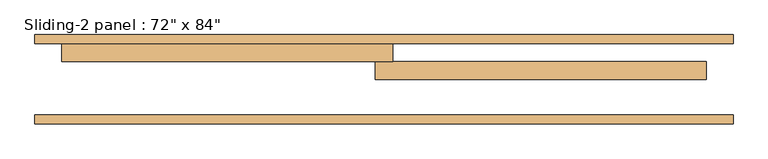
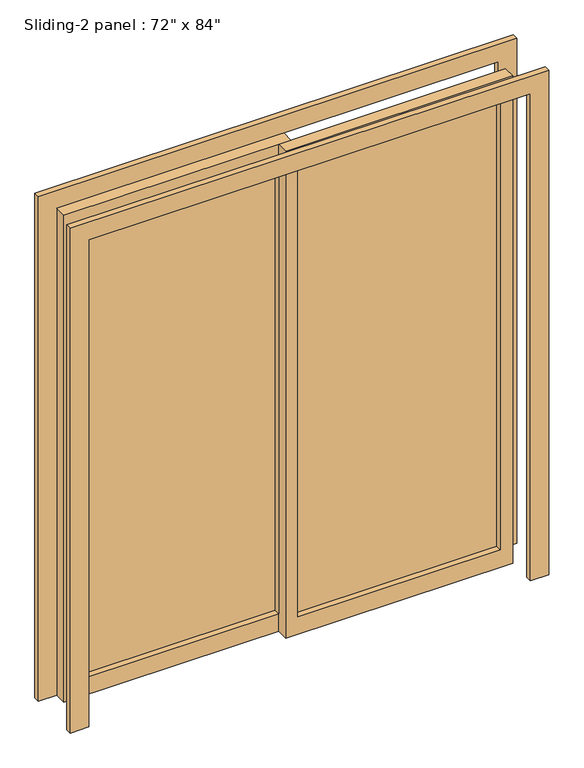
"""IFC4 building model written with IfcOpenShell, lengths in millimetres: door geometry."""

import ifcopenshell
import ifcopenshell.guid

model = None  # the IFC model being written
_history = None  # IfcOwnerHistory: only IFC2X3 demands one
_inside = {}  # id of a spatial element -> (the spatial element, [elements in it])
_under = {}  # id of a project, library or spatial element -> (it, [spatial elements below it])
_declared = {}  # id of a project -> (the project, [libraries it declares])
_typed = {}  # id of a type object -> (the type object, [elements of that type])
_made_of = {}  # id of a material, layer set ... -> (it, [elements and type objects made of it])


def new_model(schema):
    """Start an empty IFC model of exactly this schema.

    Asked for "IFC4X3", IfcOpenShell would pick the latest addendum, in which some entities
    have other attributes; the version numbers below select the first issue.
    IFC2X3 requires an IfcOwnerHistory on every rooted entity: one is made here for all.
    """
    global model, _history
    if schema == "IFC4X3":
        model = ifcopenshell.file(schema_version=(4, 3, 0, 0))
    else:
        model = ifcopenshell.file(schema=schema)
    _inside.clear()
    _under.clear()
    _declared.clear()
    _typed.clear()
    _made_of.clear()
    _history = None
    if model.schema == "IFC2X3":
        org = make("IfcOrganization", Name="unknown")
        user = make(
            "IfcPersonAndOrganization",
            ThePerson=make("IfcPerson", FamilyName="unknown"),
            TheOrganization=org,
        )
        app = make(
            "IfcApplication",
            ApplicationDeveloper=org,
            Version="unknown",
            ApplicationFullName="unknown",
            ApplicationIdentifier="unknown",
        )
        _history = make(
            "IfcOwnerHistory",
            OwningUser=user,
            OwningApplication=app,
            ChangeAction="ADDED",
            CreationDate=0,
        )
    return model


def make(cls, **values):
    """One entity of the class cls with the attributes given. An attribute that is None is left unset."""
    return model.create_entity(
        cls, **{name: value for name, value in values.items() if value is not None}
    )


def rooted(cls, **values):
    """An entity with a GlobalId (a new one), such as an element, a storey or a relation."""
    return make(cls, GlobalId=ifcopenshell.guid.new(), OwnerHistory=_history, **values)


def si_unit(unit_type, name, prefix=None):
    """IfcSIUnit, for example si_unit("LENGTHUNIT", "METRE", prefix="MILLI")."""
    return make("IfcSIUnit", UnitType=unit_type, Prefix=prefix, Name=name)


def assignment(units):
    """IfcUnitAssignment: the units of a project."""
    return None if units is None else make("IfcUnitAssignment", Units=units)


def point(xyz):
    """IfcCartesianPoint."""
    return None if xyz is None else make("IfcCartesianPoint", Coordinates=xyz)


def direction(xyz):
    """IfcDirection."""
    return None if xyz is None else make("IfcDirection", DirectionRatios=xyz)


def frame(location, z_axis=None, x_axis=None):
    """IfcAxis2Placement3D, a coordinate frame: its origin and axes. An axis left out is left unset."""
    return make(
        "IfcAxis2Placement3D",
        Location=point(location),
        Axis=direction(z_axis),
        RefDirection=direction(x_axis),
    )


def origin():
    """The frame at (0, 0, 0) with its axes left unset."""
    return frame((0.0, 0.0, 0.0))


def place(relative_to, where):
    """IfcLocalPlacement: puts the frame where relative to a parent placement (None: the world)."""
    return make(
        "IfcLocalPlacement", PlacementRelTo=relative_to, RelativePlacement=where
    )


def context(
    kind, dimensions, precision=None, world=None, true_north=None, identifier=None
):
    """IfcGeometricRepresentationContext, for example the 3D "Model" context."""
    return make(
        "IfcGeometricRepresentationContext",
        ContextIdentifier=identifier,
        ContextType=kind,
        CoordinateSpaceDimension=dimensions,
        Precision=precision,
        WorldCoordinateSystem=world,
        TrueNorth=true_north,
    )


def project(units=None, contexts=None):
    """IfcProject with its units and contexts."""
    return rooted(
        "IfcProject",
        Name="project",
        RepresentationContexts=contexts,
        UnitsInContext=assignment(units),
    )


def spatial(cls, under=None, at=None, **own):
    """A site, building, storey or space (cls), placed at a placement, below another one or the project."""
    s = rooted(cls, ObjectPlacement=at, **own)
    if under is not None:
        _under.setdefault(under.id(), (under, []))[1].append(s)
    return s


def polyline(points):
    """IfcPolyline through the points."""
    return make("IfcPolyline", Points=[point(p) for p in points])


def outline(outer, holes=None, kind="AREA"):
    """IfcArbitraryClosedProfileDef: a profile drawn as a closed curve; with holes, ...WithVoids."""
    if holes is None:
        return make("IfcArbitraryClosedProfileDef", ProfileType=kind, OuterCurve=outer)
    return make(
        "IfcArbitraryProfileDefWithVoids",
        ProfileType=kind,
        OuterCurve=outer,
        InnerCurves=holes,
    )


def extrude(swept, where, along, depth):
    """IfcExtrudedAreaSolid: the profile swept, set in the frame where, extruded along a direction by depth."""
    return make(
        "IfcExtrudedAreaSolid",
        SweptArea=swept,
        Position=where,
        ExtrudedDirection=direction(along),
        Depth=depth,
    )


def shape(context_of_items, identifier, shape_type, items):
    """IfcShapeRepresentation: the items that make up one representation, for example the "Body"."""
    return make(
        "IfcShapeRepresentation",
        ContextOfItems=context_of_items,
        RepresentationIdentifier=identifier,
        RepresentationType=shape_type,
        Items=items,
    )


def source(mapping_origin, context_of_items, identifier, shape_type, items):
    """IfcRepresentationMap: a shape defined once, which mapped items show again and again."""
    return make(
        "IfcRepresentationMap",
        MappingOrigin=mapping_origin,
        MappedRepresentation=shape(context_of_items, identifier, shape_type, items),
    )


def transform(
    local_origin,
    x_axis=None,
    y_axis=None,
    z_axis=None,
    scale=None,
    scale2=None,
    scale3=None,
    uniform=True,
):
    """IfcCartesianTransformationOperator3D, or its non-uniform kind. x_axis, y_axis, z_axis: its Axis1, 2, 3."""
    if uniform:
        return make(
            "IfcCartesianTransformationOperator3D",
            Axis1=direction(x_axis),
            Axis2=direction(y_axis),
            LocalOrigin=point(local_origin),
            Scale=scale,
            Axis3=direction(z_axis),
        )
    return make(
        "IfcCartesianTransformationOperator3DnonUniform",
        Axis1=direction(x_axis),
        Axis2=direction(y_axis),
        LocalOrigin=point(local_origin),
        Scale=scale,
        Axis3=direction(z_axis),
        Scale2=scale2,
        Scale3=scale3,
    )


def mapped(mapping_source, mapping_target):
    """IfcMappedItem: shows the shape of a source again, moved by a transform."""
    return make(
        "IfcMappedItem", MappingSource=mapping_source, MappingTarget=mapping_target
    )


def made_of(thing, what):
    """Note that an element or type object is made of a material, layer set ...; save() writes the relation."""
    if what is not None:
        _made_of.setdefault(what.id(), (what, []))[1].append(thing)
    return thing


def element(
    cls,
    number,
    at=None,
    inside=None,
    cuts=None,
    type_object=None,
    material=None,
    context=None,
    identifier="Body",
    shape_type=None,
    held_by="IfcProductDefinitionShape",
    body=None,
    shapes=None,
    **own,
):
    """One element of the class cls, such as IfcWall. Its Tag is "e" and its number.

    at: its placement. inside: the storey or other place that contains it. cuts: it is an
    opening in that element (IfcRelVoidsElement). A single representation is given by context,
    identifier, shape_type and body (its items); several are given by shapes. held_by: the class
    of the entity that holds the representations. save() writes the other relations.
    """
    e = rooted(cls, Tag="e%d" % number, ObjectPlacement=at, **own)
    if body is not None:
        shapes = [shape(context, identifier, shape_type, body)]
    if shapes is not None:
        e.Representation = make(held_by, Representations=shapes)
    if inside is not None:
        _inside.setdefault(inside.id(), (inside, []))[1].append(e)
    if cuts is not None:
        rooted(
            "IfcRelVoidsElement", RelatingBuildingElement=cuts, RelatedOpeningElement=e
        )
    if type_object is not None:
        _typed.setdefault(type_object.id(), (type_object, []))[1].append(e)
    return made_of(e, material)


def aggregate(whole, parts):
    """IfcRelAggregates: a whole, such as a stair, and the parts it consists of."""
    return rooted("IfcRelAggregates", RelatingObject=whole, RelatedObjects=parts)


def save(model, path):
    """Write the relations noted so far, then the file.

    IfcRelAggregates (storeys below a building ...), IfcRelContainedInSpatialStructure (elements
    in a storey), IfcRelDefinesByType, IfcRelAssociatesMaterial and IfcRelDeclares: one each for
    every whole, place, type object, material and project.
    """
    for whole, parts in _under.values():
        aggregate(whole, parts)
    for where, things in _inside.values():
        rooted(
            "IfcRelContainedInSpatialStructure",
            RelatedElements=things,
            RelatingStructure=where,
        )
    for kind, things in _typed.values():
        rooted("IfcRelDefinesByType", RelatedObjects=things, RelatingType=kind)
    for what, things in _made_of.values():
        rooted("IfcRelAssociatesMaterial", RelatedObjects=things, RelatingMaterial=what)
    for by, libraries in _declared.values():
        rooted("IfcRelDeclares", RelatingContext=by, RelatedDefinitions=libraries)
    model.write(path)


def door_f8fd2036(model_context):
    return source(origin(), model_context, "Body", "SweptSolid", [
        extrude(outline(polyline([(2133.6, 25.4), (2133.6, -914.4), (0.0, -914.4), (0.0, 25.4), (2133.6, 25.4)]), holes=[polyline([(2057.4, -25.4), (76.2, -25.4), (76.2, -863.6), (2057.4, -863.6), (2057.4, -25.4)])]), frame((0.0, 177.8, 0.0), z_axis=(0.0, 1.0, 0.0), x_axis=(0.0, 0.0, 1.0)), (0.0, 0.0, 1.0), 50.8),
        extrude(outline(polyline([(0.0, -990.6), (0.0, -914.4), (2133.6, -914.4), (2133.6, 914.4), (0.0, 914.4), (0.0, 990.6), (2209.8, 990.6), (2209.8, -990.6), (0.0, -990.6)])), frame((0.0, 0.0, 0.0), z_axis=(0.0, 1.0, 0.0), x_axis=(0.0, 0.0, 1.0)), (0.0, 0.0, 1.0), 25.4),
        extrude(outline(polyline([(0.0, 990.6), (2209.8, 990.6), (2209.8, -990.6), (0.0, -990.6), (0.0, -914.4), (2133.6, -914.4), (2133.6, 914.4), (0.0, 914.4), (0.0, 990.6)])), frame((0.0, 228.6, 0.0), z_axis=(0.0, 1.0, 0.0), x_axis=(0.0, 0.0, 1.0)), (0.0, 0.0, 1.0), 25.4),
        extrude(outline(polyline([(863.6, 153.19375), (25.4, 153.19375), (25.4, 159.54375), (863.6, 159.54375), (863.6, 153.19375)])), frame((0.0, 0.0, 76.2), z_axis=(0.0, 0.0, 1.0), x_axis=(1.0, 0.0, 0.0)), (0.0, 0.0, 1.0), 1981.2),
        extrude(outline(polyline([(-25.4, 203.2), (-863.6, 203.2), (-863.6, 209.55), (-25.4, 209.55), (-25.4, 203.2)])), frame((0.0, 0.0, 76.2), z_axis=(0.0, 0.0, 1.0), x_axis=(1.0, 0.0, 0.0)), (0.0, 0.0, 1.0), 1981.2),
        extrude(outline(polyline([(2133.6, -25.4), (0.0, -25.4), (0.0, 914.4), (2133.6, 914.4), (2133.6, -25.4)]), holes=[polyline([(2057.4, 25.4), (2057.4, 863.6), (76.2, 863.6), (76.2, 25.4), (2057.4, 25.4)])]), frame((0.0, 127.0, 0.0), z_axis=(0.0, 1.0, 0.0), x_axis=(0.0, 0.0, 1.0)), (0.0, 0.0, 1.0), 50.8),
    ])


if __name__ == "__main__":
    model = new_model("IFC4")
    model_context = context("Model", 3, world=origin())
    ifc_project = project(units=[si_unit("LENGTHUNIT", "METRE", prefix="MILLI")], contexts=[model_context])
    site = spatial("IfcSite", under=ifc_project)
    building = spatial("IfcBuilding", under=site)
    placement = place(None, origin())
    door_shape = door_f8fd2036(model_context)
    element("IfcDoor", 1, ObjectType="Sliding-2 panel : 72\" x 84\"", at=placement, inside=building, context=model_context, shape_type="MappedRepresentation", body=[
        mapped(door_shape, transform((0.0, 0.0, 0.0), x_axis=(1.0, 0.0, 0.0), y_axis=(0.0, 1.0, 0.0), z_axis=(0.0, 0.0, 1.0))),
    ])
    save(model, "model.ifc")
